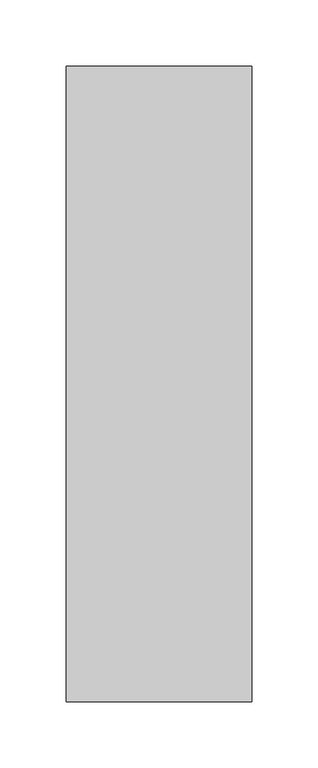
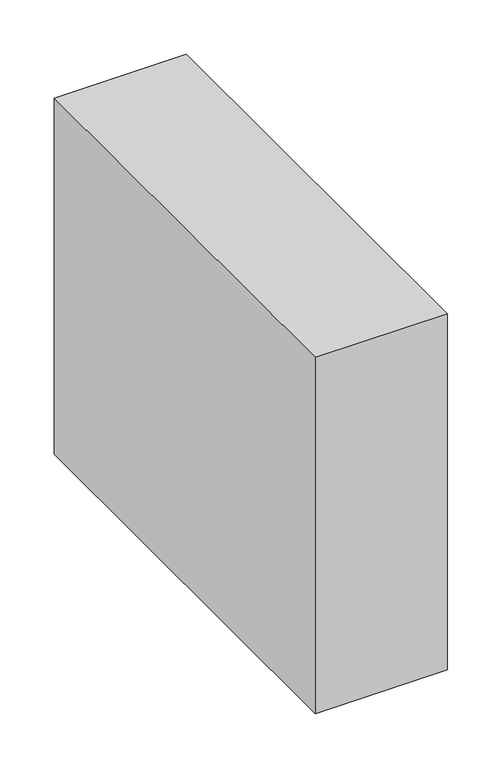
"""IFC4 building model written with IfcOpenShell, lengths in millimetres: proxy geometry."""

from ifc_helpers import new_model, si_unit, frame, origin, place, context, project, spatial, polyline, outline, extrude, source, transform, mapped, element, save


def structural_framing_b05fb5b3(model_context):
    return source(origin(), model_context, "Body", "SweptSolid", [
        extrude(outline(polyline([(70.0, -240.0), (-70.0, -240.0), (-70.0, 240.0), (70.0, 240.0), (70.0, -240.0)])), frame((0.0, 0.0, -400.0), z_axis=(0.0, 0.0, 1.0), x_axis=(1.0, 0.0, 0.0)), (0.0, 0.0, 1.0), 400.0),
    ])


if __name__ == "__main__":
    model = new_model("IFC4")
    model_context = context("Model", 3, world=origin())
    ifc_project = project(units=[si_unit("LENGTHUNIT", "METRE", prefix="MILLI")], contexts=[model_context])
    site = spatial("IfcSite", under=ifc_project)
    building = spatial("IfcBuilding", under=site)
    placement = place(None, origin())
    structural_framing_shape = structural_framing_b05fb5b3(model_context)
    element("IfcBuildingElementProxy", 1, Name="Structural Framing", at=placement, inside=building, context=model_context, shape_type="MappedRepresentation", body=[
        mapped(structural_framing_shape, transform((0.0, 0.0, 0.0), x_axis=(1.0, 0.0, 0.0), y_axis=(0.0, 1.0, 0.0), z_axis=(0.0, 0.0, 1.0))),
    ])
    save(model, "model.ifc")
